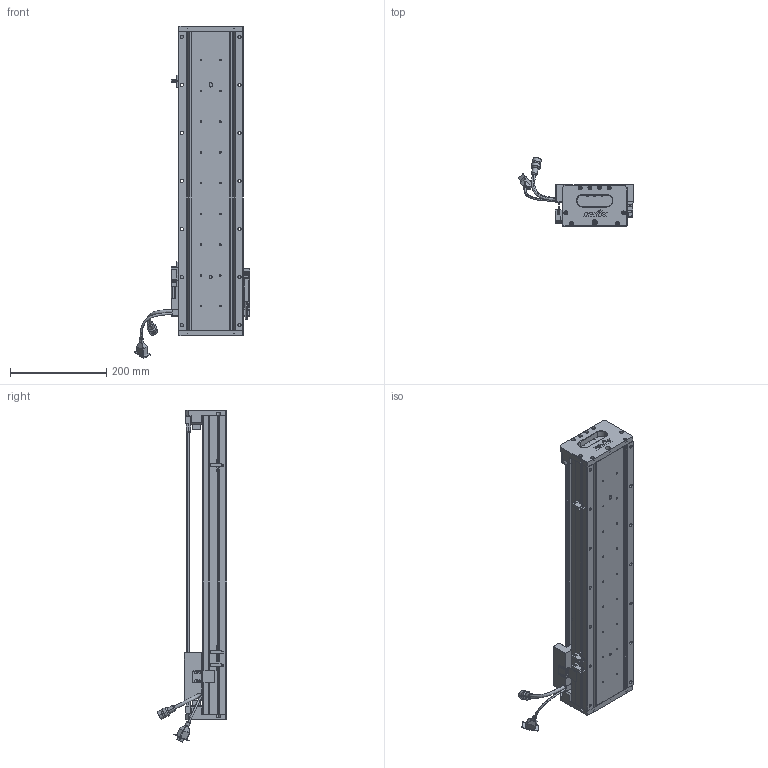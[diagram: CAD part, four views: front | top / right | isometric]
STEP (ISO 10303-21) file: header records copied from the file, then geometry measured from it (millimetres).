
FILE_DESCRIPTION (( 'STEP AP203' ), '1' );
FILE_NAME ('Z1-RY140D-1-L500-B-K.SLDASM_0450.step', '2021-05-17T07:30:35', ( '盈信电脑' ), ( '东莞市道滘镇水果街19号' ), 'SwSTEP 2.0', 'SolidWorks 2016', '' );
FILE_SCHEMA (( 'CONFIG_CONTROL_DESIGN' ));
Length unit declared in the file: millimetre
Products named in the file (36): Z1-RY140圉猾敕臏賑輸(21遴); LABEL-Part-1; Z-140詩湍傷裔啣; Z-RY140詩湍狟揤裔; SEAL-Part-1; Z1-RY140D-1-L500-B-K.SLDASM_0450; Z1-RY140-L500直线电机模组底座_0450; Z-RY140詩湍奻揤裔; SCALE-Part-2; SCREW-M1.6-3; 140雄赽晤鎢ん堤盄; Z-RY140感应器672光电感应片; HOLDER0; SCREW-M1.6; HARNESS-Part-2; PSLH080_PSLF2; 140蚥薯蝶輸; 榋妏寠巭燃_暯_M2_2; LABEL; PBU_SHEET; SEAL; 覜茼ん672; SCALE; HARNESS; SHIELDPLATE; SCALE-Part-1; 080黍杅芛假蚾釱21遴; HARNESS-Part-1; 140-Z-臏賑輸盄裔(21遴); Z1-RY140-L500詩湍100mm遵_0450; SCREW-M1.7; COVER-Part-1; SCREW-M1.7-1; SCREW-M1.6-2; SCREW-M1.6-1; COVER
Assembly tree (41 placements, depth 4):
  Z1-RY140D-1-L500-B-K.SLDASM_0450
    Z1-RY140-L500直线电机模组底座_0450
    Z-RY140感应器672光电感应片
    Z1-RY140圉猾敕臏賑輸(21遴)
    覜茼ん672  x3
    Z1-RY140-L500詩湍100mm遵_0450
    PSLH080_PSLF2
      SCALE
        SCALE-Part-1
        SCALE-Part-2
      HARNESS
        HARNESS-Part-1
        HARNESS-Part-2
      LABEL
        LABEL-Part-1
      COVER
        COVER-Part-1
      SEAL
        SEAL-Part-1
      榋妏寠巭燃_暯_M2_2
      SHIELDPLATE
      SCREW-M1.7
      SCREW-M1.7-1
      PBU_SHEET
      SCREW-M1.6
      SCREW-M1.6-1
      SCREW-M1.6-2
      SCREW-M1.6-3
      HOLDER0
    080黍杅芛假蚾釱21遴
    140-Z-臏賑輸盄裔(21遴)
    Z-140詩湍傷裔啣  x2
    Z-RY140詩湍狟揤裔  x2
    Z-RY140詩湍奻揤裔  x2
    140蚥薯蝶輸  x2
    140雄赽晤鎢ん堤盄
Bounding box: 239.84 x 143.88 x 690.88 mm (x, y, z)
Volume: 2552540.1 mm3; surface area: 690912.3 mm2
Topology: 36 solids, 36 shells, 2636 faces, 6898 edges, 4377 vertices
Faces by surface type: cylinder 1180, plane 1092, cone 242, torus 69, bspline 53
Entity records: 75410 total; most frequent: CARTESIAN_POINT 18607, ORIENTED_EDGE 11004, DIRECTION 11002, EDGE_CURVE 5502, AXIS2_PLACEMENT_3D 4004, VERTEX_POINT 3545, VECTOR 2994, LINE 2994
